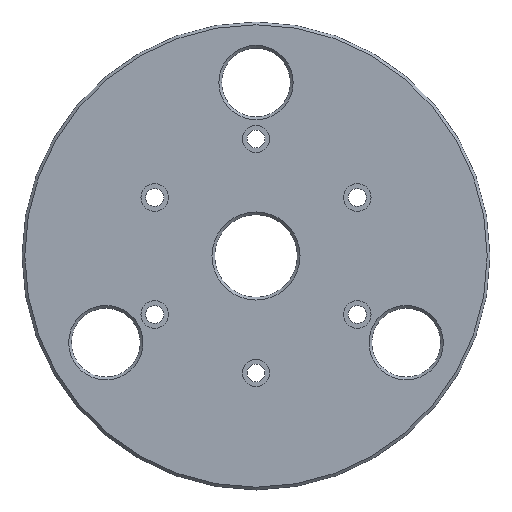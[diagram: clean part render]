
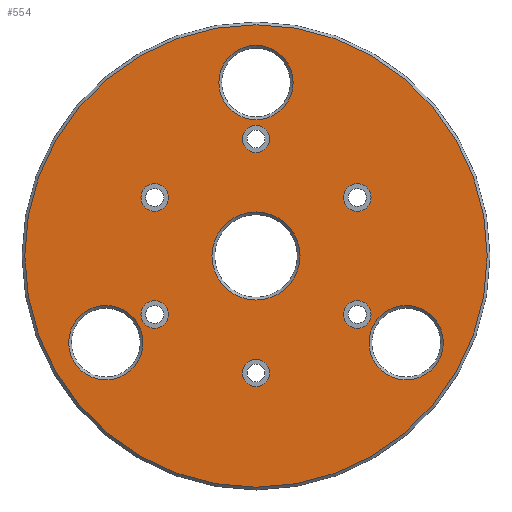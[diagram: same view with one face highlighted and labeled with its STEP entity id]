
A CAD part, top view. The second image highlights one B-rep face of the part: STEP entity #554.
In plain terms, the highlighted planar face has unit normal (0, 0, 1).
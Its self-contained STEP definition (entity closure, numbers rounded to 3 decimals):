
#101=FACE_BOUND('',#180,.T.);
#102=FACE_BOUND('',#181,.T.);
#103=FACE_BOUND('',#182,.T.);
#104=FACE_BOUND('',#183,.T.);
#105=FACE_BOUND('',#184,.T.);
#106=FACE_BOUND('',#185,.T.);
#107=FACE_BOUND('',#186,.T.);
#108=FACE_BOUND('',#187,.T.);
#109=FACE_BOUND('',#188,.T.);
#110=FACE_BOUND('',#189,.T.);
#139=FACE_OUTER_BOUND('',#179,.T.);
#179=EDGE_LOOP('',(#444));
#180=EDGE_LOOP('',(#445));
#181=EDGE_LOOP('',(#446));
#182=EDGE_LOOP('',(#447));
#183=EDGE_LOOP('',(#448));
#184=EDGE_LOOP('',(#449));
#185=EDGE_LOOP('',(#450));
#186=EDGE_LOOP('',(#451));
#187=EDGE_LOOP('',(#452));
#188=EDGE_LOOP('',(#453));
#189=EDGE_LOOP('',(#454));
#220=CIRCLE('',#596,10.);
#224=CIRCLE('',#603,10.);
#228=CIRCLE('',#610,10.);
#232=CIRCLE('',#617,10.);
#236=CIRCLE('',#624,10.);
#238=CIRCLE('',#628,168.);
#243=CIRCLE('',#635,27.);
#244=CIRCLE('',#636,27.);
#245=CIRCLE('',#637,10.);
#246=CIRCLE('',#638,27.);
#247=CIRCLE('',#639,32.);
#266=VERTEX_POINT('',#871);
#270=VERTEX_POINT('',#884);
#274=VERTEX_POINT('',#897);
#278=VERTEX_POINT('',#910);
#282=VERTEX_POINT('',#923);
#284=VERTEX_POINT('',#931);
#289=VERTEX_POINT('',#945);
#290=VERTEX_POINT('',#947);
#291=VERTEX_POINT('',#949);
#292=VERTEX_POINT('',#951);
#293=VERTEX_POINT('',#953);
#312=EDGE_CURVE('',#266,#266,#220,.T.);
#318=EDGE_CURVE('',#270,#270,#224,.T.);
#324=EDGE_CURVE('',#274,#274,#228,.T.);
#330=EDGE_CURVE('',#278,#278,#232,.T.);
#336=EDGE_CURVE('',#282,#282,#236,.T.);
#340=EDGE_CURVE('',#284,#284,#238,.T.);
#347=EDGE_CURVE('',#289,#289,#243,.T.);
#348=EDGE_CURVE('',#290,#290,#244,.T.);
#349=EDGE_CURVE('',#291,#291,#245,.T.);
#350=EDGE_CURVE('',#292,#292,#246,.T.);
#351=EDGE_CURVE('',#293,#293,#247,.T.);
#444=ORIENTED_EDGE('',*,*,#340,.F.);
#445=ORIENTED_EDGE('',*,*,#312,.T.);
#446=ORIENTED_EDGE('',*,*,#318,.T.);
#447=ORIENTED_EDGE('',*,*,#324,.T.);
#448=ORIENTED_EDGE('',*,*,#330,.T.);
#449=ORIENTED_EDGE('',*,*,#336,.T.);
#450=ORIENTED_EDGE('',*,*,#347,.F.);
#451=ORIENTED_EDGE('',*,*,#348,.F.);
#452=ORIENTED_EDGE('',*,*,#349,.T.);
#453=ORIENTED_EDGE('',*,*,#350,.F.);
#454=ORIENTED_EDGE('',*,*,#351,.F.);
#534=PLANE('',#634);
#554=ADVANCED_FACE('',(#139,#101,#102,#103,#104,#105,#106,#107,#108,#109,
#110),#534,.T.);
#596=AXIS2_PLACEMENT_3D('',#872,#683,#684);
#603=AXIS2_PLACEMENT_3D('',#885,#699,#700);
#610=AXIS2_PLACEMENT_3D('',#898,#715,#716);
#617=AXIS2_PLACEMENT_3D('',#911,#731,#732);
#624=AXIS2_PLACEMENT_3D('',#924,#747,#748);
#628=AXIS2_PLACEMENT_3D('',#932,#757,#758);
#634=AXIS2_PLACEMENT_3D('',#944,#771,#772);
#635=AXIS2_PLACEMENT_3D('',#946,#773,#774);
#636=AXIS2_PLACEMENT_3D('',#948,#775,#776);
#637=AXIS2_PLACEMENT_3D('',#950,#777,#778);
#638=AXIS2_PLACEMENT_3D('',#952,#779,#780);
#639=AXIS2_PLACEMENT_3D('',#954,#781,#782);
#683=DIRECTION('center_axis',(0.,0.,-1.));
#684=DIRECTION('ref_axis',(0.5,-0.866,0.));
#699=DIRECTION('center_axis',(0.,0.,-1.));
#700=DIRECTION('ref_axis',(-0.5,-0.866,0.));
#715=DIRECTION('center_axis',(0.,0.,-1.));
#716=DIRECTION('ref_axis',(-1.,0.,0.));
#731=DIRECTION('center_axis',(0.,0.,-1.));
#732=DIRECTION('ref_axis',(-0.5,0.866,0.));
#747=DIRECTION('center_axis',(0.,0.,-1.));
#748=DIRECTION('ref_axis',(0.5,0.866,0.));
#757=DIRECTION('center_axis',(0.,0.,-1.));
#758=DIRECTION('ref_axis',(-1.,0.,0.));
#771=DIRECTION('center_axis',(0.,0.,1.));
#772=DIRECTION('ref_axis',(1.,0.,0.));
#773=DIRECTION('center_axis',(0.,0.,1.));
#774=DIRECTION('ref_axis',(-1.,0.,0.));
#775=DIRECTION('center_axis',(0.,0.,1.));
#776=DIRECTION('ref_axis',(-1.,0.,0.));
#777=DIRECTION('center_axis',(0.,0.,-1.));
#778=DIRECTION('ref_axis',(1.,0.,0.));
#779=DIRECTION('center_axis',(0.,0.,1.));
#780=DIRECTION('ref_axis',(-1.,0.,0.));
#781=DIRECTION('center_axis',(0.,0.,1.));
#782=DIRECTION('ref_axis',(-1.,0.,0.));
#871=CARTESIAN_POINT('',(-5.,93.66,20.));
#872=CARTESIAN_POINT('Origin',(0.,85.,20.));
#884=CARTESIAN_POINT('',(78.612,51.16,20.));
#885=CARTESIAN_POINT('Origin',(73.612,42.5,20.));
#897=CARTESIAN_POINT('',(83.612,-42.5,20.));
#898=CARTESIAN_POINT('Origin',(73.612,-42.5,20.));
#910=CARTESIAN_POINT('',(5.,-93.66,20.));
#911=CARTESIAN_POINT('Origin',(0.,-85.,20.));
#923=CARTESIAN_POINT('',(-78.612,-51.16,20.));
#924=CARTESIAN_POINT('Origin',(-73.612,-42.5,20.));
#931=CARTESIAN_POINT('',(168.,0.,20.));
#932=CARTESIAN_POINT('Origin',(0.,0.,20.));
#944=CARTESIAN_POINT('Origin',(0.,0.,20.));
#945=CARTESIAN_POINT('',(136.119,-63.,20.));
#946=CARTESIAN_POINT('Origin',(109.119,-63.,20.));
#947=CARTESIAN_POINT('',(-82.119,-63.,20.));
#948=CARTESIAN_POINT('Origin',(-109.119,-63.,20.));
#949=CARTESIAN_POINT('',(-83.612,42.5,20.));
#950=CARTESIAN_POINT('Origin',(-73.612,42.5,20.));
#951=CARTESIAN_POINT('',(27.,126.,20.));
#952=CARTESIAN_POINT('Origin',(0.,126.,20.));
#953=CARTESIAN_POINT('',(32.,0.,20.));
#954=CARTESIAN_POINT('Origin',(0.,0.,20.));
